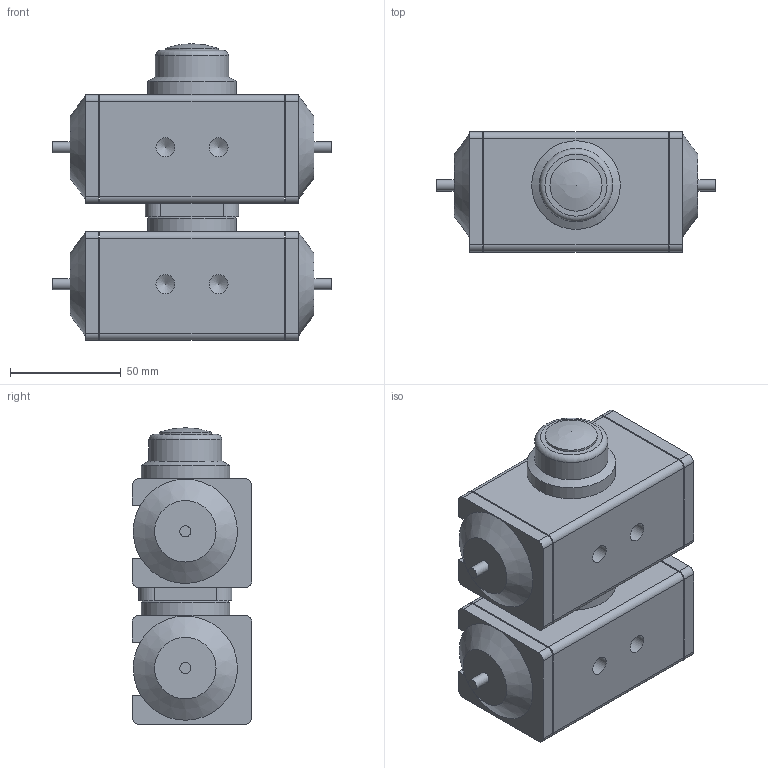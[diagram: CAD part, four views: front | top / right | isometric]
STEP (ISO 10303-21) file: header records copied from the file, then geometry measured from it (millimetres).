
FILE_DESCRIPTION( ( 'Unknown' ), '1' );
FILE_NAME( 'J:/Muud/ROOTSI BPS 3D vidinad/Kuulkraanid/Roostevaba kuulkraanid/Ball valve BPS 2411/Ball valve with pneumatic actuator BPS/STEP formaat/BPS 2411015P ball valve DN15.stp', 'Unknown', ( 'Unknown' ), ( 'Unknown' ), 'PSStep 10.1', 'Unknown', ' ' );
FILE_SCHEMA( ( 'AUTOMOTIVE_DESIGN { 1 0 10303 214 1 1 1 1 }' ) );
Length unit declared in the file: millimetre
Products named in the file (3): Assem1; BPS 2411015 ball valve DN15; BPS 8300035DA-SR pneumatic actuator
Bounding box: 126 x 54 x 133.7 mm (x, y, z)
Volume: 658606.7 mm3; surface area: 112555.5 mm2
Topology: 4 solids, 4 shells, 572 faces, 1492 edges, 986 vertices
Faces by surface type: plane 306, cylinder 148, bspline 82, cone 28, torus 6, sphere 2
Full cylindrical faces by diameter (mm): 4.134 x8, 4.917 x8, 5 x8, 8.566 x4, 15 x2, 18.631 x4, 21 x2, 23.5 x2, 31 x2, 33 x2, 34 x2, 40 x2
Entity records: 14013 total; most frequent: CARTESIAN_POINT 5754, ORIENTED_EDGE 1298, DIRECTION 956, EDGE_CURVE 649, VERTEX_POINT 459, EDGE_LOOP 374, AXIS2_PLACEMENT_3D 367, FACE_OUTER_BOUND 316
